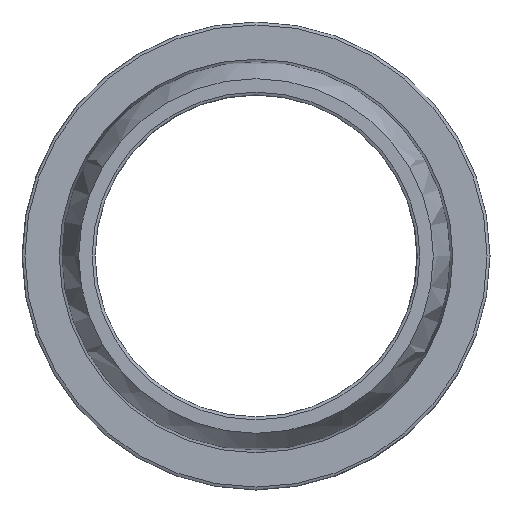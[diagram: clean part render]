
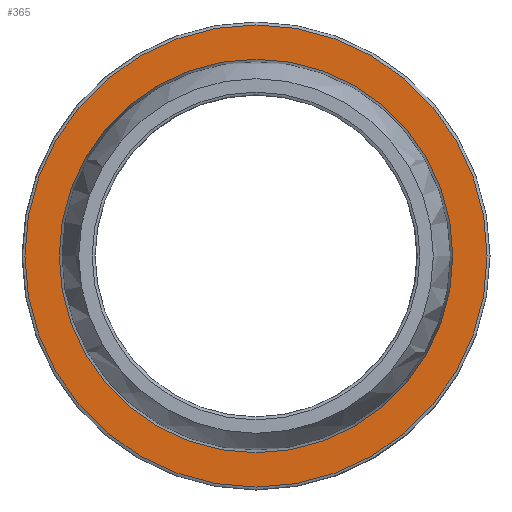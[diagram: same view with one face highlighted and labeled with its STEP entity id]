
A CAD part, left-side view. The second image highlights one B-rep face of the part: STEP entity #365.
In plain terms, the highlighted planar face has unit normal (-1, 0, 0).
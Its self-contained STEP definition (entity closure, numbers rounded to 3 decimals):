
#31=PLANE('',#419);
#76=FACE_BOUND('',#168,.T.);
#109=FACE_OUTER_BOUND('',#167,.T.);
#167=EDGE_LOOP('',(#321));
#168=EDGE_LOOP('',(#322));
#200=CIRCLE('',#418,67.278);
#201=CIRCLE('',#420,79.);
#232=VERTEX_POINT('',#838);
#233=VERTEX_POINT('',#841);
#264=EDGE_CURVE('',#232,#232,#200,.T.);
#265=EDGE_CURVE('',#233,#233,#201,.T.);
#321=ORIENTED_EDGE('',*,*,#265,.F.);
#322=ORIENTED_EDGE('',*,*,#264,.T.);
#365=ADVANCED_FACE('',(#109,#76),#31,.T.);
#418=AXIS2_PLACEMENT_3D('',#839,#522,#523);
#419=AXIS2_PLACEMENT_3D('',#840,#524,#525);
#420=AXIS2_PLACEMENT_3D('',#842,#526,#527);
#522=DIRECTION('center_axis',(1.,0.,0.));
#523=DIRECTION('ref_axis',(0.,0.,-1.));
#524=DIRECTION('center_axis',(-1.,0.,0.));
#525=DIRECTION('ref_axis',(0.,0.,1.));
#526=DIRECTION('center_axis',(1.,0.,0.));
#527=DIRECTION('ref_axis',(0.,0.,-1.));
#838=CARTESIAN_POINT('',(-27.5,67.278,0.));
#839=CARTESIAN_POINT('Origin',(-27.5,0.,0.));
#840=CARTESIAN_POINT('Origin',(-27.5,79.,0.));
#841=CARTESIAN_POINT('',(-27.5,79.,0.));
#842=CARTESIAN_POINT('Origin',(-27.5,0.,0.));
